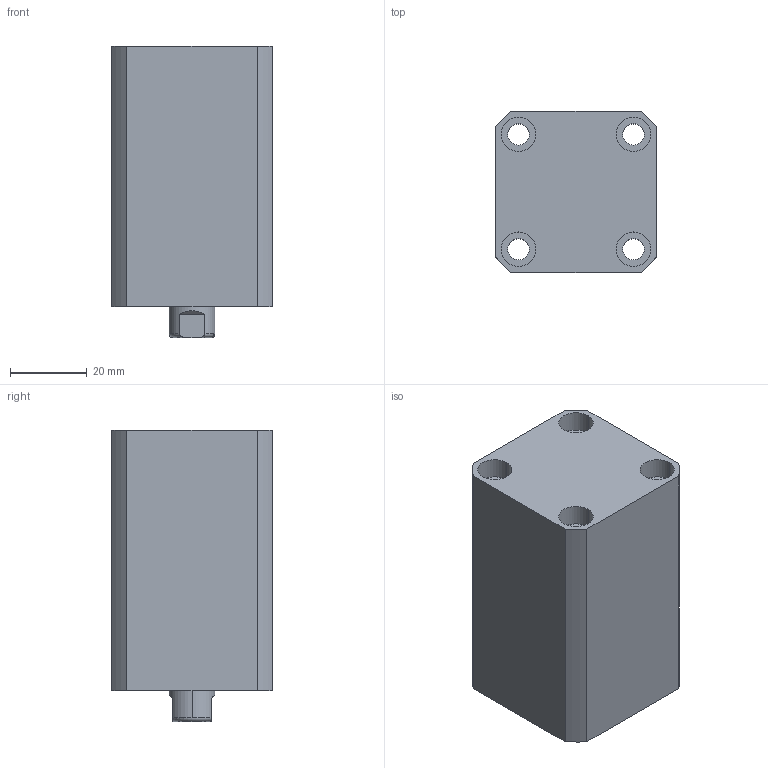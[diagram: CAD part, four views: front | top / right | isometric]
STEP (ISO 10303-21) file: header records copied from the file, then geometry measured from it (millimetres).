
FILE_DESCRIPTION (( 'STEP AP214' ), '1' );
FILE_NAME ('chtb-sd20x25n_asm.STEP', '2018-04-26T11:37:37', ( 'Windows' ), ( 'Microsoft' ), 'SwSTEP 2.0', 'SolidWorks 2015', '' );
FILE_SCHEMA (( 'AUTOMOTIVE_DESIGN' ));
Length unit declared in the file: millimetre
Products named in the file (4): QG; CHTB-SD20X25NHSG; CHTB-SD20X25NBT; chtb-sd20x25n_asm
Assembly tree (3 placements, depth 2):
  chtb-sd20x25n_asm
    CHTB-SD20X25NBT
    CHTB-SD20X25NHSG
    QG
Bounding box: 42 x 42 x 76 mm (x, y, z)
Volume: 101737.5 mm3; surface area: 32897.4 mm2
Topology: 3 solids, 3 shells, 192 faces, 499 edges, 330 vertices
Faces by surface type: cylinder 102, plane 36, torus 25, bspline 19, cone 10
Entity records: 10524 total; most frequent: CARTESIAN_POINT 5851, ORIENTED_EDGE 986, DIRECTION 903, EDGE_CURVE 493, AXIS2_PLACEMENT_3D 385, VERTEX_POINT 330, EDGE_LOOP 229, CIRCLE 206
